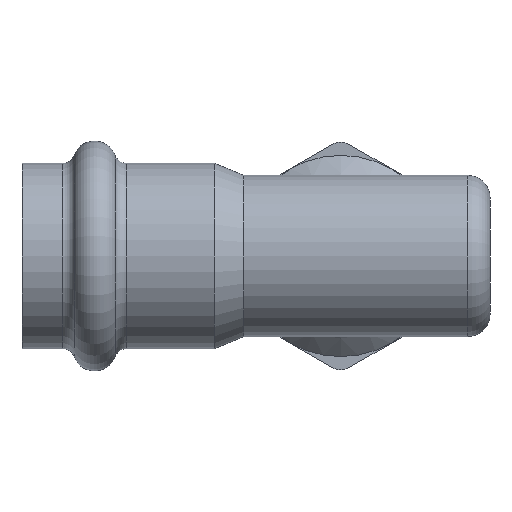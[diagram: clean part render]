
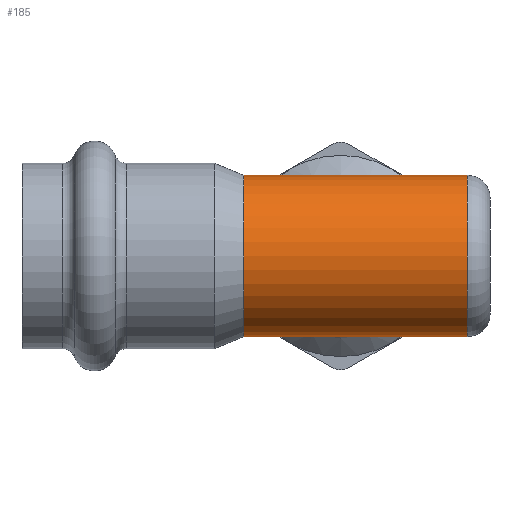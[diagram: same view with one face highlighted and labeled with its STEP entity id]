
A CAD part, front view. The second image highlights one B-rep face of the part: STEP entity #185.
In plain terms, the highlighted cylindrical face has radius 10 mm (diameter 20 mm), a full revolution.
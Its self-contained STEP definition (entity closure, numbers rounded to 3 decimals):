
#185=ADVANCED_FACE('',(#245,#246,#247),#225,.T.);
#225=CYLINDRICAL_SURFACE('',#646,10.);
#240=B_SPLINE_CURVE_WITH_KNOTS('',3,(#931,#932,#933,#934,#935,#936,#937,
#938,#939,#940,#941,#942,#943,#944,#945,#946,#947,#948,#949,#950,#951,#952,
#953,#954,#955,#956,#957,#958,#959,#960,#961,#962,#963,#964),.UNSPECIFIED.,
 .T.,.F.,(2,2,2,2,2,2,2,2,2,2,2,2,2,2,2,2,2,2,2),(-0.063,0.,0.063,0.125,
0.188,0.25,0.313,0.375,0.438,0.5,0.563,0.625,0.688,0.75,0.813,0.875,
0.938,1.,1.063),.UNSPECIFIED.);
#245=FACE_BOUND('',#299,.T.);
#246=FACE_BOUND('',#300,.T.);
#247=FACE_BOUND('',#301,.T.);
#299=EDGE_LOOP('',(#367));
#300=EDGE_LOOP('',(#368));
#301=EDGE_LOOP('',(#369));
#367=ORIENTED_EDGE('',*,*,#544,.T.);
#368=ORIENTED_EDGE('',*,*,#545,.T.);
#369=ORIENTED_EDGE('',*,*,#546,.F.);
#493=VERTEX_POINT('',#965);
#494=VERTEX_POINT('',#967);
#495=VERTEX_POINT('',#969);
#544=EDGE_CURVE('',#493,#493,#240,.T.);
#545=EDGE_CURVE('',#494,#494,#606,.T.);
#546=EDGE_CURVE('',#495,#495,#607,.T.);
#606=CIRCLE('',#644,10.);
#607=CIRCLE('',#645,10.);
#644=AXIS2_PLACEMENT_3D('',#966,#724,#725);
#645=AXIS2_PLACEMENT_3D('',#968,#726,#727);
#646=AXIS2_PLACEMENT_3D('',#970,#728,#729);
#724=DIRECTION('',(-1.,0.,0.));
#725=DIRECTION('',(0.,0.,1.));
#726=DIRECTION('',(-1.,0.,0.));
#727=DIRECTION('',(0.,0.,1.));
#728=DIRECTION('',(-1.,0.,0.));
#729=DIRECTION('',(0.,0.,1.));
#931=CARTESIAN_POINT('',(9.,10.,-1.203));
#932=CARTESIAN_POINT('',(9.,10.,1.203));
#933=CARTESIAN_POINT('',(8.699,9.773,2.376));
#934=CARTESIAN_POINT('',(7.683,9.042,4.405));
#935=CARTESIAN_POINT('',(6.979,8.546,5.264));
#936=CARTESIAN_POINT('',(5.362,7.52,6.648));
#937=CARTESIAN_POINT('',(4.429,6.971,7.194));
#938=CARTESIAN_POINT('',(2.368,6.084,7.958));
#939=CARTESIAN_POINT('',(1.192,5.75,8.181));
#940=CARTESIAN_POINT('',(-1.186,5.749,8.182));
#941=CARTESIAN_POINT('',(-2.348,6.076,7.964));
#942=CARTESIAN_POINT('',(-4.427,6.969,7.196));
#943=CARTESIAN_POINT('',(-5.342,7.507,6.663));
#944=CARTESIAN_POINT('',(-6.979,8.545,5.266));
#945=CARTESIAN_POINT('',(-7.664,9.029,4.433));
#946=CARTESIAN_POINT('',(-8.693,9.769,2.396));
#947=CARTESIAN_POINT('',(-8.994,9.995,1.223));
#948=CARTESIAN_POINT('',(-9.006,10.005,-1.146));
#949=CARTESIAN_POINT('',(-8.716,9.786,-2.327));
#950=CARTESIAN_POINT('',(-7.703,9.056,-4.378));
#951=CARTESIAN_POINT('',(-7.003,8.562,-5.239));
#952=CARTESIAN_POINT('',(-5.381,7.53,-6.637));
#953=CARTESIAN_POINT('',(-4.448,6.98,-7.185));
#954=CARTESIAN_POINT('',(-2.384,6.089,-7.955));
#955=CARTESIAN_POINT('',(-1.203,5.752,-8.18));
#956=CARTESIAN_POINT('',(1.177,5.747,-8.183));
#957=CARTESIAN_POINT('',(2.343,6.074,-7.966));
#958=CARTESIAN_POINT('',(4.431,6.97,-7.195));
#959=CARTESIAN_POINT('',(5.346,7.509,-6.661));
#960=CARTESIAN_POINT('',(6.987,8.551,-5.258));
#961=CARTESIAN_POINT('',(7.674,9.036,-4.419));
#962=CARTESIAN_POINT('',(8.7,9.774,-2.376));
#963=CARTESIAN_POINT('',(9.,10.,-1.203));
#964=CARTESIAN_POINT('',(9.,10.,1.203));
#965=CARTESIAN_POINT('',(9.,10.,0.));
#966=CARTESIAN_POINT('',(15.7,0.,0.));
#967=CARTESIAN_POINT('',(15.7,0.,10.));
#968=CARTESIAN_POINT('',(-12.036,0.,0.));
#969=CARTESIAN_POINT('',(-12.036,0.,10.));
#970=CARTESIAN_POINT('',(-8.,0.,0.));
